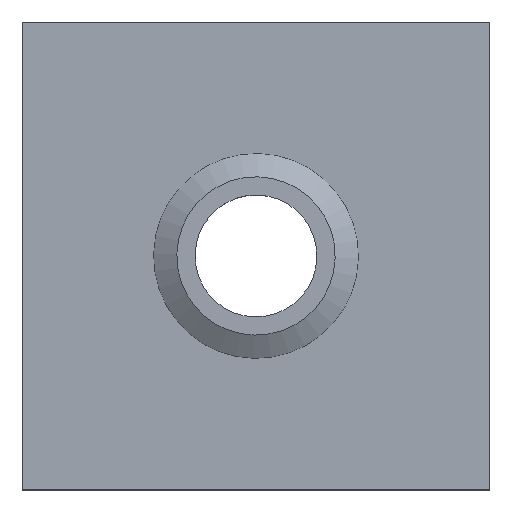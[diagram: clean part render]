
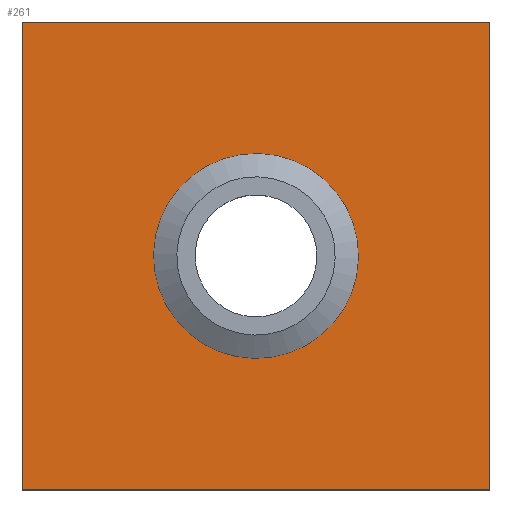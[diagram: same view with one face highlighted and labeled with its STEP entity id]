
A CAD part, top view. The second image highlights one B-rep face of the part: STEP entity #261.
In plain terms, the highlighted planar face has unit normal (0, 0, 1).
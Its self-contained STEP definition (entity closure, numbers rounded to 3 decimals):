
#20=FACE_BOUND('',#69,.T.);
#30=PLANE('',#312);
#47=FACE_OUTER_BOUND('',#68,.T.);
#68=EDGE_LOOP('',(#218,#219,#220,#221));
#69=EDGE_LOOP('',(#222));
#78=LINE('',#428,#96);
#81=LINE('',#434,#99);
#84=LINE('',#440,#102);
#86=LINE('',#443,#104);
#96=VECTOR('',#361,1.);
#99=VECTOR('',#366,1.);
#102=VECTOR('',#371,1.);
#104=VECTOR('',#375,1.);
#116=CIRCLE('',#310,77.5);
#127=VERTEX_POINT('',#422);
#129=VERTEX_POINT('',#426);
#131=VERTEX_POINT('',#432);
#133=VERTEX_POINT('',#438);
#135=VERTEX_POINT('',#447);
#153=EDGE_CURVE('',#127,#129,#78,.T.);
#156=EDGE_CURVE('',#129,#131,#81,.F.);
#159=EDGE_CURVE('',#131,#133,#84,.T.);
#161=EDGE_CURVE('',#133,#127,#86,.F.);
#164=EDGE_CURVE('',#135,#135,#116,.T.);
#218=ORIENTED_EDGE('',*,*,#153,.T.);
#219=ORIENTED_EDGE('',*,*,#156,.T.);
#220=ORIENTED_EDGE('',*,*,#159,.T.);
#221=ORIENTED_EDGE('',*,*,#161,.T.);
#222=ORIENTED_EDGE('',*,*,#164,.F.);
#261=ADVANCED_FACE('',(#47,#20),#30,.T.);
#310=AXIS2_PLACEMENT_3D('',#449,#381,#382);
#312=AXIS2_PLACEMENT_3D('',#451,#385,#386);
#361=DIRECTION('',(0.,-1.,0.));
#366=DIRECTION('',(-1.,0.,0.));
#371=DIRECTION('',(0.,1.,0.));
#375=DIRECTION('',(1.,0.,0.));
#381=DIRECTION('center_axis',(0.,0.,1.));
#382=DIRECTION('ref_axis',(-1.,0.,0.));
#385=DIRECTION('center_axis',(0.,0.,1.));
#386=DIRECTION('ref_axis',(1.,0.,0.));
#422=CARTESIAN_POINT('',(-240.,240.,1.2));
#426=CARTESIAN_POINT('',(-240.,-240.,1.2));
#428=CARTESIAN_POINT('',(-240.,0.,1.2));
#432=CARTESIAN_POINT('',(240.,-240.,1.2));
#434=CARTESIAN_POINT('',(0.,-240.,1.2));
#438=CARTESIAN_POINT('',(240.,240.,1.2));
#440=CARTESIAN_POINT('',(240.,0.,1.2));
#443=CARTESIAN_POINT('',(0.,240.,1.2));
#447=CARTESIAN_POINT('',(-77.5,0.,1.2));
#449=CARTESIAN_POINT('Origin',(0.,0.,1.2));
#451=CARTESIAN_POINT('Origin',(0.,0.,1.2));
